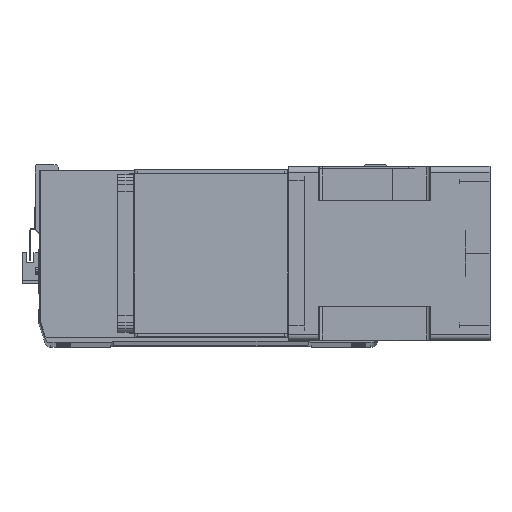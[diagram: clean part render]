
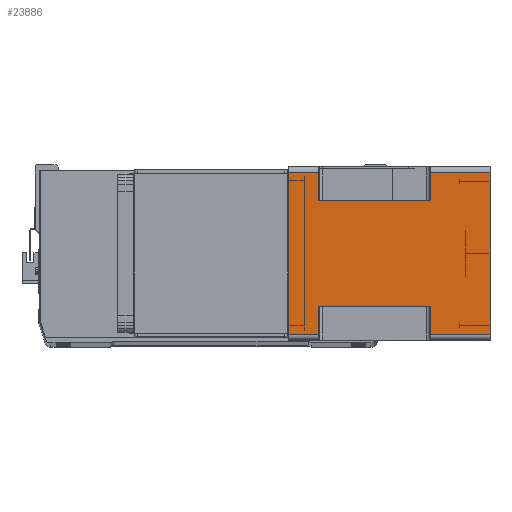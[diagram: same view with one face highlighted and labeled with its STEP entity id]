
A CAD part, top view. The second image highlights one B-rep face of the part: STEP entity #23886.
In plain terms, the highlighted planar face has unit normal (0, 0, 1) as drawn and (1, 0, 0) by its records, which use the part's own axes.
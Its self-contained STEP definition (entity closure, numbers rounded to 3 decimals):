
#274 = CARTESIAN_POINT ( 'NONE',  ( 71., -43., -24.5 ) ) ;
#438 = VECTOR ( 'NONE', #23985, 1000. ) ;
#1831 = ORIENTED_EDGE ( 'NONE', *, *, #18837, .T. ) ;
#2326 = VERTEX_POINT ( 'NONE', #30523 ) ;
#2849 = ORIENTED_EDGE ( 'NONE', *, *, #28627, .F. ) ;
#3097 = CARTESIAN_POINT ( 'NONE',  ( 71., -66., -115.5 ) ) ;
#3237 = DIRECTION ( 'NONE',  ( 0., -1., 0. ) ) ;
#3497 = LINE ( 'NONE', #17750, #29477 ) ;
#3707 = EDGE_CURVE ( 'NONE', #13746, #10087, #6516, .T. ) ;
#4268 = LINE ( 'NONE', #23632, #28289 ) ;
#4287 = LINE ( 'NONE', #30979, #17283 ) ;
#4880 = FACE_OUTER_BOUND ( 'NONE', #15894, .T. ) ;
#5292 = CARTESIAN_POINT ( 'NONE',  ( 71., -66., -164. ) ) ;
#5733 = VERTEX_POINT ( 'NONE', #21434 ) ;
#5889 = ORIENTED_EDGE ( 'NONE', *, *, #26241, .T. ) ;
#6516 = LINE ( 'NONE', #26674, #16011 ) ;
#6786 = VECTOR ( 'NONE', #14864, 1000. ) ;
#7198 = VECTOR ( 'NONE', #3237, 1000. ) ;
#7335 = CARTESIAN_POINT ( 'NONE',  ( 71., -43., -164. ) ) ;
#7490 = VECTOR ( 'NONE', #19686, 1000. ) ;
#7614 = CARTESIAN_POINT ( 'NONE',  ( 71., -66., -164. ) ) ;
#8699 = EDGE_CURVE ( 'NONE', #13069, #9689, #11061, .T. ) ;
#8974 = VERTEX_POINT ( 'NONE', #26139 ) ;
#9501 = CARTESIAN_POINT ( 'NONE',  ( 71., -66., -24.5 ) ) ;
#9538 = LINE ( 'NONE', #274, #20966 ) ;
#9689 = VERTEX_POINT ( 'NONE', #21928 ) ;
#10087 = VERTEX_POINT ( 'NONE', #32180 ) ;
#10688 = EDGE_CURVE ( 'NONE', #20852, #10087, #19294, .T. ) ;
#10695 = PLANE ( 'NONE',  #16122 ) ;
#10796 = ORIENTED_EDGE ( 'NONE', *, *, #21871, .F. ) ;
#11061 = LINE ( 'NONE', #27600, #12627 ) ;
#11398 = DIRECTION ( 'NONE',  ( 0., 0., -1. ) ) ;
#12627 = VECTOR ( 'NONE', #22535, 1000. ) ;
#13049 = DIRECTION ( 'NONE',  ( 0., 1., 0. ) ) ;
#13069 = VERTEX_POINT ( 'NONE', #27545 ) ;
#13438 = CARTESIAN_POINT ( 'NONE',  ( 71., -66., -115.5 ) ) ;
#13746 = VERTEX_POINT ( 'NONE', #28605 ) ;
#13816 = LINE ( 'NONE', #29093, #30347 ) ;
#13935 = LINE ( 'NONE', #13438, #7198 ) ;
#14210 = DIRECTION ( 'NONE',  ( 0., 1., 0. ) ) ;
#14864 = DIRECTION ( 'NONE',  ( 0., 0., 1. ) ) ;
#15084 = LINE ( 'NONE', #7335, #20181 ) ;
#15495 = VERTEX_POINT ( 'NONE', #9501 ) ;
#15894 = EDGE_LOOP ( 'NONE', ( #32401, #5889, #2849, #24236, #24565, #20252, #20473, #19674, #29455, #21825, #10796, #1831 ) ) ;
#15941 = EDGE_CURVE ( 'NONE', #19470, #8974, #13816, .T. ) ;
#16011 = VECTOR ( 'NONE', #11398, 1000. ) ;
#16122 = AXIS2_PLACEMENT_3D ( 'NONE', #5292, #23248, #28297 ) ;
#16147 = DIRECTION ( 'NONE',  ( 0., 1., 0. ) ) ;
#17283 = VECTOR ( 'NONE', #13049, 1000. ) ;
#17750 = CARTESIAN_POINT ( 'NONE',  ( 71., -66., -164. ) ) ;
#18837 = EDGE_CURVE ( 'NONE', #15495, #2326, #9538, .T. ) ;
#19294 = LINE ( 'NONE', #24640, #7490 ) ;
#19371 = VERTEX_POINT ( 'NONE', #30323 ) ;
#19470 = VERTEX_POINT ( 'NONE', #7614 ) ;
#19674 = ORIENTED_EDGE ( 'NONE', *, *, #28160, .T. ) ;
#19686 = DIRECTION ( 'NONE',  ( 0., -1., 0. ) ) ;
#19940 = EDGE_CURVE ( 'NONE', #19371, #9689, #4287, .T. ) ;
#20181 = VECTOR ( 'NONE', #32553, 1000. ) ;
#20252 = ORIENTED_EDGE ( 'NONE', *, *, #10688, .T. ) ;
#20473 = ORIENTED_EDGE ( 'NONE', *, *, #3707, .F. ) ;
#20852 = VERTEX_POINT ( 'NONE', #24376 ) ;
#20966 = VECTOR ( 'NONE', #30033, 1000. ) ;
#21434 = CARTESIAN_POINT ( 'NONE',  ( 71., -43., -115.5 ) ) ;
#21825 = ORIENTED_EDGE ( 'NONE', *, *, #19940, .F. ) ;
#21871 = EDGE_CURVE ( 'NONE', #15495, #19371, #24746, .T. ) ;
#21928 = CARTESIAN_POINT ( 'NONE',  ( 71., 66., 0. ) ) ;
#22535 = DIRECTION ( 'NONE',  ( 0., 0., 1. ) ) ;
#23248 = DIRECTION ( 'NONE',  ( 1., 0., 0. ) ) ;
#23632 = CARTESIAN_POINT ( 'NONE',  ( 71., -66., -24.5 ) ) ;
#23886 = ADVANCED_FACE ( 'NONE', ( #4880 ), #10695, .T. ) ;
#23985 = DIRECTION ( 'NONE',  ( 0., 0., 1. ) ) ;
#24236 = ORIENTED_EDGE ( 'NONE', *, *, #15941, .T. ) ;
#24376 = CARTESIAN_POINT ( 'NONE',  ( 71., 66., -115.5 ) ) ;
#24565 = ORIENTED_EDGE ( 'NONE', *, *, #26504, .T. ) ;
#24640 = CARTESIAN_POINT ( 'NONE',  ( 71., 43., -115.5 ) ) ;
#24746 = LINE ( 'NONE', #31438, #438 ) ;
#25115 = DIRECTION ( 'NONE',  ( 0., 0., 1. ) ) ;
#26139 = CARTESIAN_POINT ( 'NONE',  ( 71., 66., -164. ) ) ;
#26241 = EDGE_CURVE ( 'NONE', #5733, #26807, #13935, .T. ) ;
#26504 = EDGE_CURVE ( 'NONE', #8974, #20852, #29307, .T. ) ;
#26674 = CARTESIAN_POINT ( 'NONE',  ( 71., 43., -164. ) ) ;
#26689 = EDGE_CURVE ( 'NONE', #5733, #2326, #15084, .T. ) ;
#26807 = VERTEX_POINT ( 'NONE', #3097 ) ;
#27191 = CARTESIAN_POINT ( 'NONE',  ( 71., 66., -164. ) ) ;
#27545 = CARTESIAN_POINT ( 'NONE',  ( 71., 66., -24.5 ) ) ;
#27600 = CARTESIAN_POINT ( 'NONE',  ( 71., 66., -164. ) ) ;
#28160 = EDGE_CURVE ( 'NONE', #13746, #13069, #4268, .T. ) ;
#28289 = VECTOR ( 'NONE', #16147, 1000. ) ;
#28297 = DIRECTION ( 'NONE',  ( 0., 1., 0. ) ) ;
#28605 = CARTESIAN_POINT ( 'NONE',  ( 71., 43., -24.5 ) ) ;
#28627 = EDGE_CURVE ( 'NONE', #19470, #26807, #3497, .T. ) ;
#29093 = CARTESIAN_POINT ( 'NONE',  ( 71., -66., -164. ) ) ;
#29307 = LINE ( 'NONE', #27191, #6786 ) ;
#29455 = ORIENTED_EDGE ( 'NONE', *, *, #8699, .T. ) ;
#29477 = VECTOR ( 'NONE', #25115, 1000. ) ;
#30033 = DIRECTION ( 'NONE',  ( 0., 1., 0. ) ) ;
#30323 = CARTESIAN_POINT ( 'NONE',  ( 71., -66., 0. ) ) ;
#30347 = VECTOR ( 'NONE', #14210, 1000. ) ;
#30523 = CARTESIAN_POINT ( 'NONE',  ( 71., -43., -24.5 ) ) ;
#30979 = CARTESIAN_POINT ( 'NONE',  ( 71., -66., 0. ) ) ;
#31438 = CARTESIAN_POINT ( 'NONE',  ( 71., -66., -164. ) ) ;
#32180 = CARTESIAN_POINT ( 'NONE',  ( 71., 43., -115.5 ) ) ;
#32401 = ORIENTED_EDGE ( 'NONE', *, *, #26689, .F. ) ;
#32553 = DIRECTION ( 'NONE',  ( 0., 0., 1. ) ) ;
